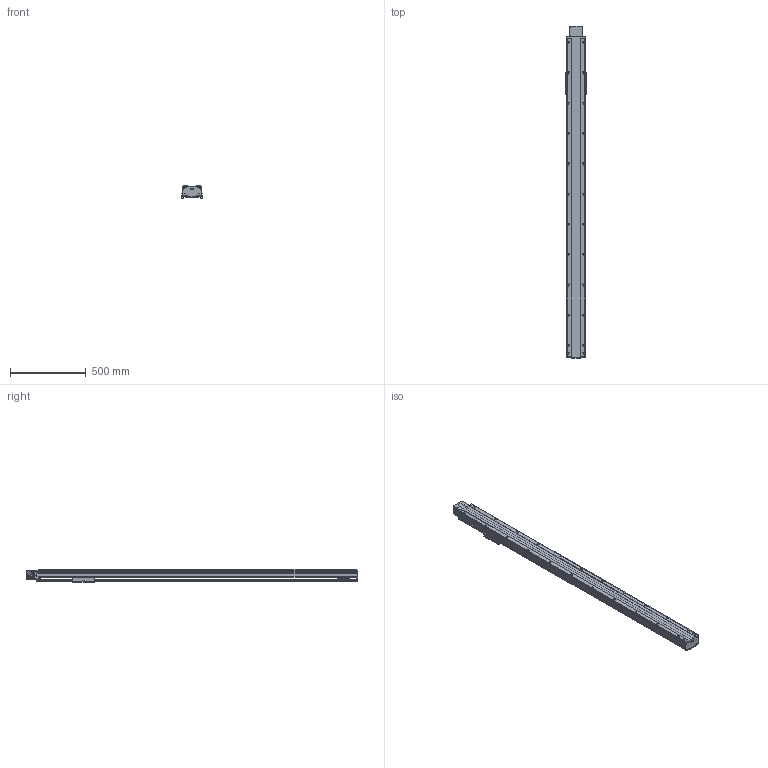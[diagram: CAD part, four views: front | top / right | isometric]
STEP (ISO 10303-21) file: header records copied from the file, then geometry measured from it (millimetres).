
FILE_DESCRIPTION(/* description */ (''),/* implementation_level */ '2;1');
FILE_NAME(/* name */ 'TKB120-FL-1800_asm1_stp.stp',/* time_stamp */ '2016-06-28T15:34:33+08:00',/* author */ (''),/* organization */ (''),/* preprocessor_version */ 'ST-DEVELOPER v15',/* originating_system */ 'SIEMENS PLM Software NX 8.5',/* authorisation */ '');
FILE_SCHEMA (('AUTOMOTIVE_DESIGN { 1 0 10303 214 3 1 1 1 }'));
Length unit declared in the file: millimetre
Products named in the file (3): 200-2; 200-1; TKB120-FL-1800_asm1_stp
Assembly tree (2 placements, depth 2):
  TKB120-FL-1800_asm1_stp
    200-1
    200-2
Bounding box: 134 x 2191 x 80 mm (x, y, z)
Volume: 5367934 mm3; surface area: 2218373.4 mm2
Topology: 2 solids, 3 shells, 864 faces, 2521 edges, 1651 vertices
Faces by surface type: cylinder 433, plane 389, cone 42
Full cylindrical faces by diameter (mm): 2.5 x4, 3.3 x20, 4.2 x4, 4.5 x24, 5 x34, 5.5 x24, 6.6 x6, 6.8 x4, 7.5 x4, 8 x12, 9 x6, 9.75 x48, 10.5 x4, 11 x2, 12 x4, 14 x2, 17 x2, 35 x2, 40 x3, 50 x2, 52 x1
Entity records: 28491 total; most frequent: CARTESIAN_POINT 6249, DIRECTION 4654, ORIENTED_EDGE 4298, EDGE_CURVE 2149, AXIS2_PLACEMENT_3D 1780, VERTEX_POINT 1575, EDGE_LOOP 1330, LINE 1094
